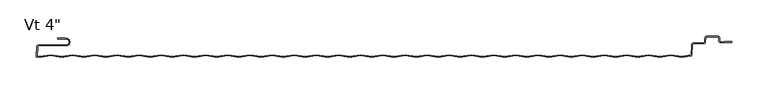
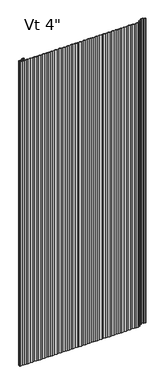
"""IFC4 building model written with IfcOpenShell, lengths in millimetres: plate geometry."""

from ifc_helpers import new_model, si_unit, point, frame, origin, place, context, project, spatial, polyline, circle_curve, ellipse_curve, trimmed, source, transform, mapped, element, save
from ifc_brep_helpers import plane_surface, cylinder_surface, revolved_surface, extruded_surface, advanced_brep


def plate_adb39f1a(model_context):
    return source(origin(), model_context, "Body", "AdvancedBrep", [
        advanced_brep(
        [(-480.4252049, -76.2, 2400.0), (-480.4252049, -77.7875, 2400.0), (-469.1142674, -77.7875, 2400.0), (-469.1142674, -85.725, 2400.0), (-507.2975721, -85.725, 2400.0), (-509.6755586, -87.981625, 2400.0), (-510.41832, -102.1543553, 2400.0), (-506.0646686, -102.8509395, 2400.0), (-490.8246686, -100.4125395, 2400.0), (-475.5846686, -102.8509395, 2400.0), (-460.3446686, -100.4125395, 2400.0), (-445.1046686, -102.8509395, 2400.0), (-429.8646686, -100.4125395, 2400.0), (-414.6246686, -102.8509395, 2400.0), (-399.3846686, -100.4125395, 2400.0), (-384.1446686, -102.8509395, 2400.0), (-368.9046686, -100.4125395, 2400.0), (-353.6646686, -102.8509395, 2400.0), (-338.4246686, -100.4125395, 2400.0), (-323.1846686, -102.8509395, 2400.0), (-307.9446686, -100.4125395, 2400.0), (-292.7046686, -102.8509395, 2400.0), (-277.4646686, -100.4125395, 2400.0), (-262.2246686, -102.8509395, 2400.0), (-246.9846686, -100.4125395, 2400.0), (-231.7446686, -102.8509395, 2400.0), (-216.5046686, -100.4125395, 2400.0), (-201.2646686, -102.8509395, 2400.0), (-186.0246686, -100.4125395, 2400.0), (-170.7846686, -102.8509395, 2400.0), (-155.5446686, -100.4125395, 2400.0), (-140.3046686, -102.8509395, 2400.0), (-125.0646686, -100.4125395, 2400.0), (-109.8246686, -102.8509395, 2400.0), (-94.5846686, -100.4125395, 2400.0), (-79.3446686, -102.8509395, 2400.0), (-64.1046686, -100.4125395, 2400.0), (-48.8646686, -102.8509395, 2400.0), (-33.6246686, -100.4125395, 2400.0), (-18.3846686, -102.8509395, 2400.0), (-3.1446686, -100.4125395, 2400.0), (12.0953314, -102.8509395, 2400.0), (27.3353314, -100.4125395, 2400.0), (42.5753314, -102.8509395, 2400.0), (57.8153314, -100.4125395, 2400.0), (73.0553314, -102.8509395, 2400.0), (88.2953314, -100.4125395, 2400.0), (103.5353314, -102.8509395, 2400.0), (118.7753314, -100.4125395, 2400.0), (134.0153314, -102.8509395, 2400.0), (149.2553314, -100.4125395, 2400.0), (164.4953314, -102.8509395, 2400.0), (179.7353314, -100.4125395, 2400.0), (194.9753314, -102.8509395, 2400.0), (210.2153314, -100.4125395, 2400.0), (225.4553314, -102.8509395, 2400.0), (240.6953314, -100.4125395, 2400.0), (255.9353314, -102.8509395, 2400.0), (271.1753314, -100.4125395, 2400.0), (286.4153314, -102.8509395, 2400.0), (301.6553314, -100.4125395, 2400.0), (316.8953314, -102.8509395, 2400.0), (332.1353314, -100.4125395, 2400.0), (347.3753314, -102.8509395, 2400.0), (362.6153314, -100.4125395, 2400.0), (377.6527639, -102.8185287, 2400.0), (390.0944828, -100.8278537, 2400.0), (391.4289973, -99.343375, 2400.0), (392.1470603, -85.6419167, 2400.0), (393.7323847, -84.1375, 2400.0), (407.8886911, -84.1375, 2400.0), (410.2666776, -81.880875, 2400.0), (410.5687539, -76.1169167, 2400.0), (412.1540783, -74.6125, 2400.0), (427.0294826, -74.6125, 2400.0), (428.6169826, -76.2, 2400.0), (428.6169826, -80.3671875, 2400.0), (430.9982326, -82.7484375, 2400.0), (445.4898532, -82.7484375, 2400.0), (445.4898532, -80.9546875, 2400.0), (435.7607326, -80.9546875, 2400.0), (435.7607326, -81.7484375, 2400.0), (430.9982326, -81.7484375, 2400.0), (429.6169826, -80.3671875, 2400.0), (429.6169826, -76.2, 2400.0), (427.0294826, -73.6125, 2400.0), (412.1540783, -73.6125, 2400.0), (409.5701244, -76.0645807, 2400.0), (409.2680481, -81.828539, 2400.0), (407.8886911, -83.1375, 2400.0), (393.7323847, -83.1375, 2400.0), (391.1484307, -85.5895807, 2400.0), (390.4303677, -99.291039, 2400.0), (389.9364923, -99.840413, 2400.0), (377.6527639, -101.8058096, 2400.0), (362.6153314, -99.3998204, 2400.0), (347.3753314, -101.8382204, 2400.0), (332.1353314, -99.3998204, 2400.0), (316.8953314, -101.8382204, 2400.0), (301.6553314, -99.3998204, 2400.0), (286.4153314, -101.8382204, 2400.0), (271.1753314, -99.3998204, 2400.0), (255.9353314, -101.8382204, 2400.0), (240.6953314, -99.3998204, 2400.0), (225.4553314, -101.8382204, 2400.0), (210.2153314, -99.3998204, 2400.0), (194.9753314, -101.8382204, 2400.0), (179.7353314, -99.3998204, 2400.0), (164.4953314, -101.8382204, 2400.0), (149.2553314, -99.3998204, 2400.0), (134.0153314, -101.8382204, 2400.0), (118.7753314, -99.3998204, 2400.0), (103.5353314, -101.8382204, 2400.0), (88.2953314, -99.3998204, 2400.0), (73.0553314, -101.8382204, 2400.0), (57.8153314, -99.3998204, 2400.0), (42.5753314, -101.8382204, 2400.0), (27.3353314, -99.3998204, 2400.0), (12.0953314, -101.8382204, 2400.0), (-3.1446686, -99.3998204, 2400.0), (-18.3846686, -101.8382204, 2400.0), (-33.6246686, -99.3998204, 2400.0), (-48.8646686, -101.8382204, 2400.0), (-64.1046686, -99.3998204, 2400.0), (-79.3446686, -101.8382204, 2400.0), (-94.5846686, -99.3998204, 2400.0), (-109.8246686, -101.8382204, 2400.0), (-125.0646686, -99.3998204, 2400.0), (-140.3046686, -101.8382204, 2400.0), (-155.5446686, -99.3998204, 2400.0), (-170.7846686, -101.8382204, 2400.0), (-186.0246686, -99.3998204, 2400.0), (-201.2646686, -101.8382204, 2400.0), (-216.5046686, -99.3998204, 2400.0), (-231.7446686, -101.8382204, 2400.0), (-246.9846686, -99.3998204, 2400.0), (-262.2246686, -101.8382204, 2400.0), (-277.4646686, -99.3998204, 2400.0), (-292.7046686, -101.8382204, 2400.0), (-307.9446686, -99.3998204, 2400.0), (-323.1846686, -101.8382204, 2400.0), (-338.4246686, -99.3998204, 2400.0), (-353.6646686, -101.8382204, 2400.0), (-368.9046686, -99.3998204, 2400.0), (-384.1446686, -101.8382204, 2400.0), (-399.3846686, -99.3998204, 2400.0), (-414.6246686, -101.8382204, 2400.0), (-429.8646686, -99.3998204, 2400.0), (-445.1046686, -101.8382204, 2400.0), (-460.3446686, -99.3998204, 2400.0), (-475.5846686, -101.8382204, 2400.0), (-490.8246686, -99.3998204, 2400.0), (-506.0646686, -101.8382204, 2400.0), (-509.3726415, -101.3089447, 2400.0), (-508.6769291, -88.033961, 2400.0), (-507.2975721, -86.725, 2400.0), (-469.1142674, -86.725, 2400.0), (-469.1142674, -76.7875, 2400.0), (-470.7017674, -76.99375, 2400.0), (-470.7017674, -76.2, 2400.0), (-480.4252049, -76.2, 0.0), (-470.7017674, -76.2, 0.0), (-470.7017674, -76.99375, 0.0), (-469.1142674, -76.7875, 0.0), (-469.1142674, -86.725, 0.0), (-507.2975721, -86.725, 0.0), (-508.6769291, -88.033961, 0.0), (-509.3726415, -101.3089447, 0.0), (-506.0646686, -101.8382204, 0.0), (-490.8246686, -99.3998204, 0.0), (-475.5846686, -101.8382204, 0.0), (-460.3446686, -99.3998204, 0.0), (-445.1046686, -101.8382204, 0.0), (-429.8646686, -99.3998204, 0.0), (-414.6246686, -101.8382204, 0.0), (-399.3846686, -99.3998204, 0.0), (-384.1446686, -101.8382204, 0.0), (-368.9046686, -99.3998204, 0.0), (-353.6646686, -101.8382204, 0.0), (-338.4246686, -99.3998204, 0.0), (-323.1846686, -101.8382204, 0.0), (-307.9446686, -99.3998204, 0.0), (-292.7046686, -101.8382204, 0.0), (-277.4646686, -99.3998204, 0.0), (-262.2246686, -101.8382204, 0.0), (-246.9846686, -99.3998204, 0.0), (-231.7446686, -101.8382204, 0.0), (-216.5046686, -99.3998204, 0.0), (-201.2646686, -101.8382204, 0.0), (-186.0246686, -99.3998204, 0.0), (-170.7846686, -101.8382204, 0.0), (-155.5446686, -99.3998204, 0.0), (-140.3046686, -101.8382204, 0.0), (-125.0646686, -99.3998204, 0.0), (-109.8246686, -101.8382204, 0.0), (-94.5846686, -99.3998204, 0.0), (-79.3446686, -101.8382204, 0.0), (-64.1046686, -99.3998204, 0.0), (-48.8646686, -101.8382204, 0.0), (-33.6246686, -99.3998204, 0.0), (-18.3846686, -101.8382204, 0.0), (-3.1446686, -99.3998204, 0.0), (12.0953314, -101.8382204, 0.0), (27.3353314, -99.3998204, 0.0), (42.5753314, -101.8382204, 0.0), (57.8153314, -99.3998204, 0.0), (73.0553314, -101.8382204, 0.0), (88.2953314, -99.3998204, 0.0), (103.5353314, -101.8382204, 0.0), (118.7753314, -99.3998204, 0.0), (134.0153314, -101.8382204, 0.0), (149.2553314, -99.3998204, 0.0), (164.4953314, -101.8382204, 0.0), (179.7353314, -99.3998204, 0.0), (194.9753314, -101.8382204, 0.0), (210.2153314, -99.3998204, 0.0), (225.4553314, -101.8382204, 0.0), (240.6953314, -99.3998204, 0.0), (255.9353314, -101.8382204, 0.0), (271.1753314, -99.3998204, 0.0), (286.4153314, -101.8382204, 0.0), (301.6553314, -99.3998204, 0.0), (316.8953314, -101.8382204, 0.0), (332.1353314, -99.3998204, 0.0), (347.3753314, -101.8382204, 0.0), (362.6153314, -99.3998204, 0.0), (377.6527639, -101.8058096, 0.0), (389.9364923, -99.840413, 0.0), (390.4303677, -99.291039, 0.0), (391.1484307, -85.5895807, 0.0), (393.7323847, -83.1375, 0.0), (407.8886911, -83.1375, 0.0), (409.2680481, -81.828539, 0.0), (409.5701244, -76.0645807, 0.0), (412.1540783, -73.6125, 0.0), (427.0294826, -73.6125, 0.0), (429.6169826, -76.2, 0.0), (429.6169826, -80.3671875, 0.0), (430.9982326, -81.7484375, 0.0), (435.7607326, -81.7484375, 0.0), (435.7607326, -80.9546875, 0.0), (445.4898532, -80.9546875, 0.0), (445.4898532, -82.7484375, 0.0), (430.9982326, -82.7484375, 0.0), (428.6169826, -80.3671875, 0.0), (428.6169826, -76.2, 0.0), (427.0294826, -74.6125, 0.0), (412.1540783, -74.6125, 0.0), (410.5687539, -76.1169167, 0.0), (410.2666776, -81.880875, 0.0), (407.8886911, -84.1375, 0.0), (393.7323847, -84.1375, 0.0), (392.1470603, -85.6419167, 0.0), (391.4289973, -99.343375, 0.0), (390.0944828, -100.8278537, 0.0), (377.6527639, -102.8185287, 0.0), (362.6153314, -100.4125395, 0.0), (347.3753314, -102.8509395, 0.0), (332.1353314, -100.4125395, 0.0), (316.8953314, -102.8509395, 0.0), (301.6553314, -100.4125395, 0.0), (286.4153314, -102.8509395, 0.0), (271.1753314, -100.4125395, 0.0), (255.9353314, -102.8509395, 0.0), (240.6953314, -100.4125395, 0.0), (225.4553314, -102.8509395, 0.0), (210.2153314, -100.4125395, 0.0), (194.9753314, -102.8509395, 0.0), (179.7353314, -100.4125395, 0.0), (164.4953314, -102.8509395, 0.0), (149.2553314, -100.4125395, 0.0), (134.0153314, -102.8509395, 0.0), (118.7753314, -100.4125395, 0.0), (103.5353314, -102.8509395, 0.0), (88.2953314, -100.4125395, 0.0), (73.0553314, -102.8509395, 0.0), (57.8153314, -100.4125395, 0.0), (42.5753314, -102.8509395, 0.0), (27.3353314, -100.4125395, 0.0), (12.0953314, -102.8509395, 0.0), (-3.1446686, -100.4125395, 0.0), (-18.3846686, -102.8509395, 0.0), (-33.6246686, -100.4125395, 0.0), (-48.8646686, -102.8509395, 0.0), (-64.1046686, -100.4125395, 0.0), (-79.3446686, -102.8509395, 0.0), (-94.5846686, -100.4125395, 0.0), (-109.8246686, -102.8509395, 0.0), (-125.0646686, -100.4125395, 0.0), (-140.3046686, -102.8509395, 0.0), (-155.5446686, -100.4125395, 0.0), (-170.7846686, -102.8509395, 0.0), (-186.0246686, -100.4125395, 0.0), (-201.2646686, -102.8509395, 0.0), (-216.5046686, -100.4125395, 0.0), (-231.7446686, -102.8509395, 0.0), (-246.9846686, -100.4125395, 0.0), (-262.2246686, -102.8509395, 0.0), (-277.4646686, -100.4125395, 0.0), (-292.7046686, -102.8509395, 0.0), (-307.9446686, -100.4125395, 0.0), (-323.1846686, -102.8509395, 0.0), (-338.4246686, -100.4125395, 0.0), (-353.6646686, -102.8509395, 0.0), (-368.9046686, -100.4125395, 0.0), (-384.1446686, -102.8509395, 0.0), (-399.3846686, -100.4125395, 0.0), (-414.6246686, -102.8509395, 0.0), (-429.8646686, -100.4125395, 0.0), (-445.1046686, -102.8509395, 0.0), (-460.3446686, -100.4125395, 0.0), (-475.5846686, -102.8509395, 0.0), (-490.8246686, -100.4125395, 0.0), (-506.0646686, -102.8509395, 0.0), (-510.41832, -102.1543553, 0.0), (-509.6755586, -87.981625, 0.0), (-507.2975721, -85.725, 0.0), (-469.1142674, -85.725, 0.0), (-469.1142674, -77.7875, 0.0), (-480.4252049, -77.7875, 0.0)],
        [
            (0, 1, circle_curve(frame((-480.4252049, -76.99375, 2400.0), z_axis=(0.0, 0.0, 1.0), x_axis=(1.0, 0.0, 0.0)), 0.79375)),
            (1, 2),
            (2, 3, circle_curve(frame((-469.1142674, -81.75625, 2400.0), z_axis=(0.0, 0.0, -1.0), x_axis=(1.0, 0.0, 0.0)), 3.96875)),
            (3, 4),
            (4, 5, circle_curve(frame((-507.2975721, -88.10625, 2400.0), z_axis=(0.0, 0.0, 1.0), x_axis=(1.0, 0.0, 0.0)), 2.38125)),
            (5, 6),
            (6, 7),
            (7, 8),
            (8, 9),
            (9, 10),
            (10, 11),
            (11, 12),
            (12, 13),
            (13, 14),
            (14, 15),
            (15, 16),
            (16, 17),
            (17, 18),
            (18, 19),
            (19, 20),
            (20, 21),
            (21, 22),
            (22, 23),
            (23, 24),
            (24, 25),
            (25, 26),
            (26, 27),
            (27, 28),
            (28, 29),
            (29, 30),
            (30, 31),
            (31, 32),
            (32, 33),
            (33, 34),
            (34, 35),
            (35, 36),
            (36, 37),
            (37, 38),
            (38, 39),
            (39, 40),
            (40, 41),
            (41, 42),
            (42, 43),
            (43, 44),
            (44, 45),
            (45, 46),
            (46, 47),
            (47, 48),
            (48, 49),
            (49, 50),
            (50, 51),
            (51, 52),
            (52, 53),
            (53, 54),
            (54, 55),
            (55, 56),
            (56, 57),
            (57, 58),
            (58, 59),
            (59, 60),
            (60, 61),
            (61, 62),
            (62, 63),
            (63, 64),
            (64, 65),
            (65, 66),
            (66, 67, circle_curve(frame((389.8436729, -99.2602917, 2400.0), z_axis=(0.0, 0.0, 1.0), x_axis=(1.0, 0.0, 0.0)), 1.5875)),
            (67, 68),
            (68, 69, circle_curve(frame((393.7323847, -85.725, 2400.0), z_axis=(0.0, 0.0, -1.0), x_axis=(1.0, 0.0, 0.0)), 1.5875)),
            (69, 70),
            (70, 71, circle_curve(frame((407.8886911, -81.75625, 2400.0), z_axis=(0.0, 0.0, 1.0), x_axis=(1.0, 0.0, 0.0)), 2.38125)),
            (71, 72),
            (72, 73, circle_curve(frame((412.1540783, -76.2, 2400.0), z_axis=(0.0, 0.0, -1.0), x_axis=(1.0, 0.0, 0.0)), 1.5875)),
            (73, 74),
            (74, 75, circle_curve(frame((427.0294826, -76.2, 2400.0), z_axis=(0.0, 0.0, -1.0), x_axis=(1.0, 0.0, 0.0)), 1.5875)),
            (75, 76),
            (76, 77, circle_curve(frame((430.9982326, -80.3671875, 2400.0), z_axis=(0.0, 0.0, 1.0), x_axis=(1.0, 0.0, 0.0)), 2.38125)),
            (77, 78),
            (78, 79, ellipse_curve(frame((445.4898532, -81.8515625, 2400.0), z_axis=(0.0, 0.0, 1.0), x_axis=(0.0, 1.0, 0.0)), 0.896875, 0.7852275)),
            (79, 80),
            (80, 81),
            (81, 82),
            (82, 83, circle_curve(frame((430.9982326, -80.3671875, 2400.0), z_axis=(0.0, 0.0, -1.0), x_axis=(1.0, 0.0, 0.0)), 1.38125)),
            (83, 84),
            (84, 85, circle_curve(frame((427.0294826, -76.2, 2400.0), z_axis=(0.0, 0.0, 1.0), x_axis=(1.0, 0.0, 0.0)), 2.5875)),
            (85, 86),
            (86, 87, circle_curve(frame((412.1540783, -76.2, 2400.0), z_axis=(0.0, 0.0, 1.0), x_axis=(1.0, 0.0, 0.0)), 2.5875)),
            (87, 88),
            (88, 89, circle_curve(frame((407.8886911, -81.75625, 2400.0), z_axis=(0.0, 0.0, -1.0), x_axis=(1.0, 0.0, 0.0)), 1.38125)),
            (89, 90),
            (90, 91, circle_curve(frame((393.7323847, -85.725, 2400.0), z_axis=(0.0, 0.0, 1.0), x_axis=(1.0, 0.0, 0.0)), 2.5875)),
            (91, 92),
            (92, 93, circle_curve(frame((389.8436729, -99.2602917, 2400.0), z_axis=(0.0, 0.0, -1.0), x_axis=(1.0, 0.0, 0.0)), 0.5875)),
            (93, 94),
            (94, 95),
            (95, 96),
            (96, 97),
            (97, 98),
            (98, 99),
            (99, 100),
            (100, 101),
            (101, 102),
            (102, 103),
            (103, 104),
            (104, 105),
            (105, 106),
            (106, 107),
            (107, 108),
            (108, 109),
            (109, 110),
            (110, 111),
            (111, 112),
            (112, 113),
            (113, 114),
            (114, 115),
            (115, 116),
            (116, 117),
            (117, 118),
            (118, 119),
            (119, 120),
            (120, 121),
            (121, 122),
            (122, 123),
            (123, 124),
            (124, 125),
            (125, 126),
            (126, 127),
            (127, 128),
            (128, 129),
            (129, 130),
            (130, 131),
            (131, 132),
            (132, 133),
            (133, 134),
            (134, 135),
            (135, 136),
            (136, 137),
            (137, 138),
            (138, 139),
            (139, 140),
            (140, 141),
            (141, 142),
            (142, 143),
            (143, 144),
            (144, 145),
            (145, 146),
            (146, 147),
            (147, 148),
            (148, 149),
            (149, 150),
            (150, 151),
            (151, 152),
            (152, 153),
            (153, 154),
            (154, 155, circle_curve(frame((-507.2975721, -88.10625, 2400.0), z_axis=(0.0, 0.0, -1.0), x_axis=(1.0, 0.0, 0.0)), 1.38125)),
            (155, 156),
            (156, 157, circle_curve(frame((-469.1142674, -81.75625, 2400.0), z_axis=(0.0, 0.0, 1.0), x_axis=(1.0, 0.0, 0.0)), 4.96875)),
            (157, 158),
            (158, 159),
            (159, 0),
            (160, 161),
            (161, 162),
            (162, 163),
            (163, 164, circle_curve(frame((-469.1142674, -81.75625, 0.0), z_axis=(0.0, 0.0, -1.0), x_axis=(1.0, 0.0, 0.0)), 4.96875)),
            (164, 165),
            (165, 166, circle_curve(frame((-507.2975721, -88.10625, 0.0), z_axis=(0.0, 0.0, 1.0), x_axis=(1.0, 0.0, 0.0)), 1.38125)),
            (166, 167),
            (167, 168),
            (168, 169),
            (169, 170),
            (170, 171),
            (171, 172),
            (172, 173),
            (173, 174),
            (174, 175),
            (175, 176),
            (176, 177),
            (177, 178),
            (178, 179),
            (179, 180),
            (180, 181),
            (181, 182),
            (182, 183),
            (183, 184),
            (184, 185),
            (185, 186),
            (186, 187),
            (187, 188),
            (188, 189),
            (189, 190),
            (190, 191),
            (191, 192),
            (192, 193),
            (193, 194),
            (194, 195),
            (195, 196),
            (196, 197),
            (197, 198),
            (198, 199),
            (199, 200),
            (200, 201),
            (201, 202),
            (202, 203),
            (203, 204),
            (204, 205),
            (205, 206),
            (206, 207),
            (207, 208),
            (208, 209),
            (209, 210),
            (210, 211),
            (211, 212),
            (212, 213),
            (213, 214),
            (214, 215),
            (215, 216),
            (216, 217),
            (217, 218),
            (218, 219),
            (219, 220),
            (220, 221),
            (221, 222),
            (222, 223),
            (223, 224),
            (224, 225),
            (225, 226),
            (226, 227),
            (227, 228, circle_curve(frame((389.8436729, -99.2602917, 0.0), z_axis=(0.0, 0.0, 1.0), x_axis=(1.0, 0.0, 0.0)), 0.5875)),
            (228, 229),
            (229, 230, circle_curve(frame((393.7323847, -85.725, 0.0), z_axis=(0.0, 0.0, -1.0), x_axis=(1.0, 0.0, 0.0)), 2.5875)),
            (230, 231),
            (231, 232, circle_curve(frame((407.8886911, -81.75625, 0.0), z_axis=(0.0, 0.0, 1.0), x_axis=(1.0, 0.0, 0.0)), 1.38125)),
            (232, 233),
            (233, 234, circle_curve(frame((412.1540783, -76.2, 0.0), z_axis=(0.0, 0.0, -1.0), x_axis=(1.0, 0.0, 0.0)), 2.5875)),
            (234, 235),
            (235, 236, circle_curve(frame((427.0294826, -76.2, 0.0), z_axis=(0.0, 0.0, -1.0), x_axis=(1.0, 0.0, 0.0)), 2.5875)),
            (236, 237),
            (237, 238, circle_curve(frame((430.9982326, -80.3671875, 0.0), z_axis=(0.0, 0.0, 1.0), x_axis=(1.0, 0.0, 0.0)), 1.38125)),
            (238, 239),
            (239, 240),
            (240, 241),
            (241, 242, ellipse_curve(frame((445.4898532, -81.8515625, 0.0), z_axis=(0.0, 0.0, -1.0), x_axis=(0.0, 1.0, 0.0)), 0.896875, 0.7852275)),
            (242, 243),
            (243, 244, circle_curve(frame((430.9982326, -80.3671875, 0.0), z_axis=(0.0, 0.0, -1.0), x_axis=(1.0, 0.0, 0.0)), 2.38125)),
            (244, 245),
            (245, 246, circle_curve(frame((427.0294826, -76.2, 0.0), z_axis=(0.0, 0.0, 1.0), x_axis=(1.0, 0.0, 0.0)), 1.5875)),
            (246, 247),
            (247, 248, circle_curve(frame((412.1540783, -76.2, 0.0), z_axis=(0.0, 0.0, 1.0), x_axis=(1.0, 0.0, 0.0)), 1.5875)),
            (248, 249),
            (249, 250, circle_curve(frame((407.8886911, -81.75625, 0.0), z_axis=(0.0, 0.0, -1.0), x_axis=(1.0, 0.0, 0.0)), 2.38125)),
            (250, 251),
            (251, 252, circle_curve(frame((393.7323847, -85.725, 0.0), z_axis=(0.0, 0.0, 1.0), x_axis=(1.0, 0.0, 0.0)), 1.5875)),
            (252, 253),
            (253, 254, circle_curve(frame((389.8436729, -99.2602917, 0.0), z_axis=(0.0, 0.0, -1.0), x_axis=(1.0, 0.0, 0.0)), 1.5875)),
            (254, 255),
            (255, 256),
            (256, 257),
            (257, 258),
            (258, 259),
            (259, 260),
            (260, 261),
            (261, 262),
            (262, 263),
            (263, 264),
            (264, 265),
            (265, 266),
            (266, 267),
            (267, 268),
            (268, 269),
            (269, 270),
            (270, 271),
            (271, 272),
            (272, 273),
            (273, 274),
            (274, 275),
            (275, 276),
            (276, 277),
            (277, 278),
            (278, 279),
            (279, 280),
            (280, 281),
            (281, 282),
            (282, 283),
            (283, 284),
            (284, 285),
            (285, 286),
            (286, 287),
            (287, 288),
            (288, 289),
            (289, 290),
            (290, 291),
            (291, 292),
            (292, 293),
            (293, 294),
            (294, 295),
            (295, 296),
            (296, 297),
            (297, 298),
            (298, 299),
            (299, 300),
            (300, 301),
            (301, 302),
            (302, 303),
            (303, 304),
            (304, 305),
            (305, 306),
            (306, 307),
            (307, 308),
            (308, 309),
            (309, 310),
            (310, 311),
            (311, 312),
            (312, 313),
            (313, 314),
            (314, 315),
            (315, 316, circle_curve(frame((-507.2975721, -88.10625, 0.0), z_axis=(0.0, 0.0, -1.0), x_axis=(1.0, 0.0, 0.0)), 2.38125)),
            (316, 317),
            (317, 318, circle_curve(frame((-469.1142674, -81.75625, 0.0), z_axis=(0.0, 0.0, 1.0), x_axis=(1.0, 0.0, 0.0)), 3.96875)),
            (318, 319),
            (319, 160, circle_curve(frame((-480.4252049, -76.99375, 0.0), z_axis=(0.0, 0.0, -1.0), x_axis=(1.0, 0.0, 0.0)), 0.79375)),
            (159, 161),
            (160, 0),
            (319, 1),
            (318, 2),
            (317, 3),
            (316, 4),
            (315, 5),
            (314, 6),
            (68, 252),
            (251, 69),
            (250, 70),
            (249, 71),
            (248, 72),
            (247, 73),
            (154, 166),
            (165, 155),
            (90, 230),
            (229, 91),
            (89, 231),
            (88, 232),
            (87, 233),
            (86, 234),
            (81, 239),
            (238, 82),
            (237, 83),
            (236, 84),
            (246, 74),
            (245, 75),
            (244, 76),
            (243, 77),
            (242, 78),
            (85, 235),
            (164, 156),
            (163, 157),
            (158, 162),
            (80, 240),
            (79, 241),
            (95, 225),
            (224, 96),
            (223, 97),
            (222, 98),
            (221, 99),
            (220, 100),
            (219, 101),
            (218, 102),
            (217, 103),
            (216, 104),
            (215, 105),
            (214, 106),
            (213, 107),
            (212, 108),
            (211, 109),
            (147, 173),
            (172, 148),
            (171, 149),
            (170, 150),
            (169, 151),
            (168, 152),
            (167, 153),
            (313, 7),
            (312, 8),
            (311, 9),
            (310, 10),
            (309, 11),
            (308, 12),
            (36, 284),
            (283, 37),
            (282, 38),
            (50, 270),
            (269, 51),
            (268, 52),
            (267, 53),
            (266, 54),
            (265, 55),
            (264, 56),
            (263, 57),
            (262, 58),
            (261, 59),
            (260, 60),
            (259, 61),
            (258, 62),
            (257, 63),
            (256, 64),
            (65, 255),
            (254, 66),
            (253, 67),
            (92, 228),
            (227, 93),
            (226, 94),
            (123, 197),
            (196, 124),
            (195, 125),
            (194, 126),
            (49, 271),
            (48, 272),
            (47, 273),
            (46, 274),
            (45, 275),
            (44, 276),
            (43, 277),
            (42, 278),
            (41, 279),
            (40, 280),
            (39, 281),
            (122, 198),
            (121, 199),
            (120, 200),
            (119, 201),
            (118, 202),
            (117, 203),
            (116, 204),
            (115, 205),
            (114, 206),
            (113, 207),
            (112, 208),
            (111, 209),
            (110, 210),
            (135, 185),
            (184, 136),
            (183, 137),
            (193, 127),
            (192, 128),
            (191, 129),
            (130, 190),
            (189, 131),
            (188, 132),
            (133, 187),
            (186, 134),
            (22, 298),
            (297, 23),
            (24, 296),
            (295, 25),
            (294, 26),
            (293, 27),
            (292, 28),
            (291, 29),
            (290, 30),
            (289, 31),
            (288, 32),
            (287, 33),
            (286, 34),
            (285, 35),
            (182, 138),
            (181, 139),
            (180, 140),
            (179, 141),
            (178, 142),
            (177, 143),
            (16, 304),
            (303, 17),
            (302, 18),
            (301, 19),
            (300, 20),
            (299, 21),
            (176, 144),
            (175, 145),
            (174, 146),
            (307, 13),
            (306, 14),
            (305, 15),
        ],
        [
            plane_surface(frame((0.00625, -101.6, 2400.0), z_axis=(0.0, 0.0, 1.0), x_axis=(0.0, -1.0, 0.0))),
            plane_surface(frame((0.00625, -101.6, 0.0), z_axis=(0.0, 0.0, -1.0), x_axis=(0.0, -1.0, 0.0))),
            plane_surface(frame((-480.4252049, -76.2, 2400.0), z_axis=(0.0, 1.0, 0.0), x_axis=(0.0, 0.0, -1.0))),
            cylinder_surface(frame((-480.4252049, -76.99375, 2400.0), z_axis=(0.0, 0.0, 1.0), x_axis=(1.0, 0.0, 0.0)), 0.79375),
            plane_surface(frame((-469.1142674, -77.7875, 2400.0), z_axis=(0.0, -1.0, 0.0), x_axis=(0.0, 0.0, -1.0))),
            revolved_surface(polyline([(-465.1455174, -81.75625, 0.0), (-465.1455174, -81.75625, 2400.0)]), (-469.1142674, -81.75625, 2400.0), (0.0, 0.0, -1.0)),
            plane_surface(frame((-507.2975721, -85.725, 2400.0), z_axis=(0.0, 1.0, 0.0), x_axis=(0.0, 0.0, -1.0))),
            cylinder_surface(frame((-507.2975721, -88.10625, 2400.0), z_axis=(0.0, 0.0, 1.0), x_axis=(1.0, 0.0, 0.0)), 2.38125),
            plane_surface(frame((-510.41832, -102.1543553, 2400.0), z_axis=(-0.9986295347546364, 0.05233595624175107, 0.0), x_axis=(0.0, 0.0, -1.0))),
            revolved_surface(polyline([(395.3198847, -85.725, 0.0), (395.3198847, -85.725, 2400.0)]), (393.7323847, -85.725, 2400.0), (0.0, 0.0, -1.0)),
            plane_surface(frame((407.8886911, -84.1375, 2400.0), z_axis=(0.0, -1.0, 0.0), x_axis=(0.0, 0.0, -1.0))),
            cylinder_surface(frame((407.8886911, -81.75625, 2400.0), z_axis=(0.0, 0.0, 1.0), x_axis=(1.0, 0.0, 0.0)), 2.38125),
            plane_surface(frame((410.5687539, -76.1169167, 2400.0), z_axis=(0.9986295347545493, -0.052335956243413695, 0.0), x_axis=(0.0, 0.0, -1.0))),
            revolved_surface(polyline([(413.74157829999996, -76.2, 0.0), (413.74157829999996, -76.2, 2400.0)]), (412.1540783, -76.2, 2400.0), (0.0, 0.0, -1.0)),
            revolved_surface(polyline([(-505.9163221, -88.10625, 0.0), (-505.9163221, -88.10625, 2400.0)]), (-507.2975721, -88.10625, 2400.0), (0.0, 0.0, -1.0)),
            cylinder_surface(frame((393.7323847, -85.725, 2400.0), z_axis=(0.0, 0.0, 1.0), x_axis=(1.0, 0.0, 0.0)), 2.5875),
            plane_surface(frame((393.7323847, -83.1375, 2400.0), z_axis=(0.0, 1.0, 0.0), x_axis=(0.0, 0.0, -1.0))),
            revolved_surface(polyline([(409.26994110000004, -81.75625, 0.0), (409.26994110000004, -81.75625, 2400.0)]), (407.8886911, -81.75625, 2400.0), (0.0, 0.0, -1.0)),
            plane_surface(frame((409.2680481, -81.828539, 2400.0), z_axis=(-0.998629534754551, 0.05233595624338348, 0.0), x_axis=(0.0, 0.0, -1.0))),
            cylinder_surface(frame((412.1540783, -76.2, 2400.0), z_axis=(0.0, 0.0, 1.0), x_axis=(1.0, 0.0, 0.0)), 2.5875),
            plane_surface(frame((430.9982326, -81.7484375, 2400.0), z_axis=(0.0, 1.0, 0.0), x_axis=(0.0, 0.0, -1.0))),
            revolved_surface(polyline([(432.3794826, -80.3671875, 0.0), (432.3794826, -80.3671875, 2400.0)]), (430.9982326, -80.3671875, 2400.0), (0.0, 0.0, -1.0)),
            plane_surface(frame((429.6169826, -76.2, 2400.0), z_axis=(1.0, 0.0, 0.0), x_axis=(0.0, 0.0, -1.0))),
            plane_surface(frame((427.0294826, -74.6125, 2400.0), z_axis=(0.0, -1.0, 0.0), x_axis=(0.0, 0.0, -1.0))),
            revolved_surface(polyline([(428.6169826, -76.2, 0.0), (428.6169826, -76.2, 2400.0)]), (427.0294826, -76.2, 2400.0), (0.0, 0.0, -1.0)),
            plane_surface(frame((428.6169826, -80.3671875, 2400.0), z_axis=(-1.0, 0.0, 0.0), x_axis=(0.0, 0.0, -1.0))),
            cylinder_surface(frame((430.9982326, -80.3671875, 2400.0), z_axis=(0.0, 0.0, 1.0), x_axis=(1.0, 0.0, 0.0)), 2.38125),
            plane_surface(frame((445.4898532, -82.7484375, 2400.0), z_axis=(0.0, -1.0, 0.0), x_axis=(0.0, 0.0, -1.0))),
            plane_surface(frame((412.1540783, -73.6125, 2400.0), z_axis=(0.0, 1.0, 0.0), x_axis=(0.0, 0.0, -1.0))),
            cylinder_surface(frame((427.0294826, -76.2, 2400.0), z_axis=(0.0, 0.0, 1.0), x_axis=(1.0, 0.0, 0.0)), 2.5875),
            plane_surface(frame((-469.1142674, -86.725, 2400.0), z_axis=(0.0, -1.0, 0.0), x_axis=(0.0, 0.0, -1.0))),
            cylinder_surface(frame((-469.1142674, -81.75625, 2400.0), z_axis=(0.0, 0.0, 1.0), x_axis=(1.0, 0.0, 0.0)), 4.96875),
            plane_surface(frame((-470.7017674, -76.2, 2400.0), z_axis=(1.0, 0.0, 0.0), x_axis=(0.0, 0.0, -1.0))),
            plane_surface(frame((-470.7017674, -76.99375, 2400.0), z_axis=(-0.12883844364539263, 0.9916655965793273, 0.0), x_axis=(0.0, 0.0, -1.0))),
            plane_surface(frame((435.7607326, -81.7484375, 2400.0), z_axis=(-1.0, 0.0, 0.0), x_axis=(0.0, 0.0, -1.0))),
            plane_surface(frame((435.7607326, -80.9546875, 2400.0), z_axis=(0.0, 1.0, 0.0), x_axis=(0.0, 0.0, -1.0))),
            extruded_surface(trimmed(ellipse_curve(frame((445.4898532, -81.8515625, 2400.0), z_axis=(0.0, 0.0, -1.0), x_axis=(0.0, 1.0, 0.0)), 0.896875, 0.7852275), [point((445.4898532, -80.9546875, 2400.0))], [point((445.4898532, -82.7484375, 2400.0))], True, "CARTESIAN"), (0.0, 0.0, -2400.0), 2400.0),
            plane_surface(frame((347.3753314, -101.8382204, 2400.0), z_axis=(-0.15799050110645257, 0.9874406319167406, 0.0), x_axis=(0.0, 0.0, -1.0))),
            plane_surface(frame((332.1353314, -99.3998204, 2400.0), z_axis=(0.157990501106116, 0.9874406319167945, 0.0), x_axis=(0.0, 0.0, -1.0))),
            plane_surface(frame((316.8953314, -101.8382204, 2400.0), z_axis=(-0.15799050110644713, 0.9874406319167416, 0.0), x_axis=(0.0, 0.0, -1.0))),
            plane_surface(frame((301.6553314, -99.3998204, 2400.0), z_axis=(0.157990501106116, 0.9874406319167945, 0.0), x_axis=(0.0, 0.0, -1.0))),
            plane_surface(frame((286.4153314, -101.8382204, 2400.0), z_axis=(-0.15799050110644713, 0.9874406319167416, 0.0), x_axis=(0.0, 0.0, -1.0))),
            plane_surface(frame((271.1753314, -99.3998204, 2400.0), z_axis=(0.157990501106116, 0.9874406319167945, 0.0), x_axis=(0.0, 0.0, -1.0))),
            plane_surface(frame((255.9353314, -101.8382204, 2400.0), z_axis=(-0.15799050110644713, 0.9874406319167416, 0.0), x_axis=(0.0, 0.0, -1.0))),
            plane_surface(frame((240.6953314, -99.3998204, 2400.0), z_axis=(0.15799050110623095, 0.9874406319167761, 0.0), x_axis=(0.0, 0.0, -1.0))),
            plane_surface(frame((225.4553314, -101.8382204, 2400.0), z_axis=(-0.15799050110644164, 0.9874406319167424, 0.0), x_axis=(0.0, 0.0, -1.0))),
            plane_surface(frame((210.2153314, -99.3998204, 2400.0), z_axis=(0.15799050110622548, 0.987440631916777, 0.0), x_axis=(0.0, 0.0, -1.0))),
            plane_surface(frame((194.9753314, -101.8382204, 2400.0), z_axis=(-0.15799050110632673, 0.9874406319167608, 0.0), x_axis=(0.0, 0.0, -1.0))),
            plane_surface(frame((179.7353314, -99.3998204, 2400.0), z_axis=(0.15799050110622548, 0.987440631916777, 0.0), x_axis=(0.0, 0.0, -1.0))),
            plane_surface(frame((164.4953314, -101.8382204, 2400.0), z_axis=(-0.15799050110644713, 0.9874406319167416, 0.0), x_axis=(0.0, 0.0, -1.0))),
            plane_surface(frame((149.2553314, -99.3998204, 2400.0), z_axis=(0.15799050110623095, 0.9874406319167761, 0.0), x_axis=(0.0, 0.0, -1.0))),
            plane_surface(frame((-445.1046686, -101.8382204, 2400.0), z_axis=(-0.15799050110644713, 0.9874406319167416, 0.0), x_axis=(0.0, 0.0, -1.0))),
            plane_surface(frame((-460.3446686, -99.3998204, 2400.0), z_axis=(0.15799050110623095, 0.9874406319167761, 0.0), x_axis=(0.0, 0.0, -1.0))),
            plane_surface(frame((-475.5846686, -101.8382204, 2400.0), z_axis=(-0.15799050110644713, 0.9874406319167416, 0.0), x_axis=(0.0, 0.0, -1.0))),
            plane_surface(frame((-490.8246686, -99.3998204, 2400.0), z_axis=(0.157990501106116, 0.9874406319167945, 0.0), x_axis=(0.0, 0.0, -1.0))),
            plane_surface(frame((-506.0646686, -101.8382204, 2400.0), z_axis=(-0.15799050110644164, 0.9874406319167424, 0.0), x_axis=(0.0, 0.0, -1.0))),
            plane_surface(frame((-509.3726415, -101.3089447, 2400.0), z_axis=(0.1579905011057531, 0.9874406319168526, 0.0), x_axis=(0.0, 0.0, -1.0))),
            plane_surface(frame((-506.0646686, -102.8509395, 2400.0), z_axis=(-0.15799050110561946, -0.9874406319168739, 0.0), x_axis=(0.0, 0.0, -1.0))),
            plane_surface(frame((-490.8246686, -100.4125395, 2400.0), z_axis=(0.15799050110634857, -0.9874406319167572, 0.0), x_axis=(0.0, 0.0, -1.0))),
            plane_surface(frame((-475.5846686, -102.8509395, 2400.0), z_axis=(-0.15799050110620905, -0.9874406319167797, 0.0), x_axis=(0.0, 0.0, -1.0))),
            plane_surface(frame((-460.3446686, -100.4125395, 2400.0), z_axis=(0.15799050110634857, -0.9874406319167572, 0.0), x_axis=(0.0, 0.0, -1.0))),
            plane_surface(frame((-445.1046686, -102.8509395, 2400.0), z_axis=(-0.15799050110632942, -0.9874406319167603, 0.0), x_axis=(0.0, 0.0, -1.0))),
            plane_surface(frame((-429.8646686, -100.4125395, 2400.0), z_axis=(0.15799050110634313, -0.9874406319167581, 0.0), x_axis=(0.0, 0.0, -1.0))),
            plane_surface(frame((-48.8646686, -102.8509395, 2400.0), z_axis=(-0.15799050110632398, -0.9874406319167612, 0.0), x_axis=(0.0, 0.0, -1.0))),
            plane_surface(frame((-33.6246686, -100.4125395, 2400.0), z_axis=(0.15799050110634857, -0.9874406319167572, 0.0), x_axis=(0.0, 0.0, -1.0))),
            plane_surface(frame((164.4953314, -102.8509395, 2400.0), z_axis=(-0.15799050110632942, -0.9874406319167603, 0.0), x_axis=(0.0, 0.0, -1.0))),
            plane_surface(frame((179.7353314, -100.4125395, 2400.0), z_axis=(0.15799050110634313, -0.9874406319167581, 0.0), x_axis=(0.0, 0.0, -1.0))),
            plane_surface(frame((194.9753314, -102.8509395, 2400.0), z_axis=(-0.15799050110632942, -0.9874406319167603, 0.0), x_axis=(0.0, 0.0, -1.0))),
            plane_surface(frame((210.2153314, -100.4125395, 2400.0), z_axis=(0.1579905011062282, -0.9874406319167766, 0.0), x_axis=(0.0, 0.0, -1.0))),
            plane_surface(frame((225.4553314, -102.8509395, 2400.0), z_axis=(-0.15799050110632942, -0.9874406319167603, 0.0), x_axis=(0.0, 0.0, -1.0))),
            plane_surface(frame((240.6953314, -100.4125395, 2400.0), z_axis=(0.15799050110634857, -0.9874406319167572, 0.0), x_axis=(0.0, 0.0, -1.0))),
            plane_surface(frame((255.9353314, -102.8509395, 2400.0), z_axis=(-0.15799050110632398, -0.9874406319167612, 0.0), x_axis=(0.0, 0.0, -1.0))),
            plane_surface(frame((271.1753314, -100.4125395, 2400.0), z_axis=(0.15799050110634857, -0.9874406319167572, 0.0), x_axis=(0.0, 0.0, -1.0))),
            plane_surface(frame((286.4153314, -102.8509395, 2400.0), z_axis=(-0.15799050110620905, -0.9874406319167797, 0.0), x_axis=(0.0, 0.0, -1.0))),
            plane_surface(frame((301.6553314, -100.4125395, 2400.0), z_axis=(0.15799050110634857, -0.9874406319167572, 0.0), x_axis=(0.0, 0.0, -1.0))),
            plane_surface(frame((316.8953314, -102.8509395, 2400.0), z_axis=(-0.15799050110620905, -0.9874406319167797, 0.0), x_axis=(0.0, 0.0, -1.0))),
            plane_surface(frame((332.1353314, -100.4125395, 2400.0), z_axis=(0.15799050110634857, -0.9874406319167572, 0.0), x_axis=(0.0, 0.0, -1.0))),
            plane_surface(frame((347.3753314, -102.8509395, 2400.0), z_axis=(-0.15799050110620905, -0.9874406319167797, 0.0), x_axis=(0.0, 0.0, -1.0))),
            plane_surface(frame((362.6153314, -100.4125395, 2400.0), z_axis=(0.15799050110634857, -0.9874406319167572, 0.0), x_axis=(0.0, 0.0, -1.0))),
            plane_surface(frame((390.0944828, -100.8278537, 2400.0), z_axis=(0.15799050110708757, -0.987440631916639, 0.0), x_axis=(0.0, 0.0, -1.0))),
            cylinder_surface(frame((389.8436729, -99.2602917, 2400.0), z_axis=(0.0, 0.0, 1.0), x_axis=(1.0, 0.0, 0.0)), 1.5875),
            revolved_surface(polyline([(390.4311729, -99.2602917, 0.0), (390.4311729, -99.2602917, 2400.0)]), (389.8436729, -99.2602917, 2400.0), (0.0, 0.0, -1.0)),
            plane_surface(frame((377.6527639, -101.8058096, 2400.0), z_axis=(-0.15799050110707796, 0.9874406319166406, 0.0), x_axis=(0.0, 0.0, -1.0))),
            plane_surface(frame((-79.3446686, -101.8382204, 2400.0), z_axis=(-0.15799050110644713, 0.9874406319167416, 0.0), x_axis=(0.0, 0.0, -1.0))),
            plane_surface(frame((-94.5846686, -99.3998204, 2400.0), z_axis=(0.157990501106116, 0.9874406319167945, 0.0), x_axis=(0.0, 0.0, -1.0))),
            plane_surface(frame((-109.8246686, -101.8382204, 2400.0), z_axis=(-0.15799050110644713, 0.9874406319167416, 0.0), x_axis=(0.0, 0.0, -1.0))),
            plane_surface(frame((149.2553314, -100.4125395, 2400.0), z_axis=(0.15799050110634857, -0.9874406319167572, 0.0), x_axis=(0.0, 0.0, -1.0))),
            plane_surface(frame((134.0153314, -102.8509395, 2400.0), z_axis=(-0.15799050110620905, -0.9874406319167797, 0.0), x_axis=(0.0, 0.0, -1.0))),
            plane_surface(frame((118.7753314, -100.4125395, 2400.0), z_axis=(0.15799050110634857, -0.9874406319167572, 0.0), x_axis=(0.0, 0.0, -1.0))),
            plane_surface(frame((103.5353314, -102.8509395, 2400.0), z_axis=(-0.15799050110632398, -0.9874406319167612, 0.0), x_axis=(0.0, 0.0, -1.0))),
            plane_surface(frame((88.2953314, -100.4125395, 2400.0), z_axis=(0.15799050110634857, -0.9874406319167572, 0.0), x_axis=(0.0, 0.0, -1.0))),
            plane_surface(frame((73.0553314, -102.8509395, 2400.0), z_axis=(-0.15799050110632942, -0.9874406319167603, 0.0), x_axis=(0.0, 0.0, -1.0))),
            plane_surface(frame((57.8153314, -100.4125395, 2400.0), z_axis=(0.1579905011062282, -0.9874406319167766, 0.0), x_axis=(0.0, 0.0, -1.0))),
            plane_surface(frame((42.5753314, -102.8509395, 2400.0), z_axis=(-0.15799050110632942, -0.9874406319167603, 0.0), x_axis=(0.0, 0.0, -1.0))),
            plane_surface(frame((27.3353314, -100.4125395, 2400.0), z_axis=(0.15799050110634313, -0.9874406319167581, 0.0), x_axis=(0.0, 0.0, -1.0))),
            plane_surface(frame((12.0953314, -102.8509395, 2400.0), z_axis=(-0.15799050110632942, -0.9874406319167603, 0.0), x_axis=(0.0, 0.0, -1.0))),
            plane_surface(frame((-3.1446686, -100.4125395, 2400.0), z_axis=(0.15799050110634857, -0.9874406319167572, 0.0), x_axis=(0.0, 0.0, -1.0))),
            plane_surface(frame((-18.3846686, -102.8509395, 2400.0), z_axis=(-0.15799050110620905, -0.9874406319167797, 0.0), x_axis=(0.0, 0.0, -1.0))),
            plane_surface(frame((-64.1046686, -99.3998204, 2400.0), z_axis=(0.15799050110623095, 0.9874406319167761, 0.0), x_axis=(0.0, 0.0, -1.0))),
            plane_surface(frame((-48.8646686, -101.8382204, 2400.0), z_axis=(-0.15799050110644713, 0.9874406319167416, 0.0), x_axis=(0.0, 0.0, -1.0))),
            plane_surface(frame((-33.6246686, -99.3998204, 2400.0), z_axis=(0.157990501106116, 0.9874406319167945, 0.0), x_axis=(0.0, 0.0, -1.0))),
            plane_surface(frame((-18.3846686, -101.8382204, 2400.0), z_axis=(-0.15799050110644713, 0.9874406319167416, 0.0), x_axis=(0.0, 0.0, -1.0))),
            plane_surface(frame((-3.1446686, -99.3998204, 2400.0), z_axis=(0.15799050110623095, 0.9874406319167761, 0.0), x_axis=(0.0, 0.0, -1.0))),
            plane_surface(frame((12.0953314, -101.8382204, 2400.0), z_axis=(-0.15799050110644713, 0.9874406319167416, 0.0), x_axis=(0.0, 0.0, -1.0))),
            plane_surface(frame((27.3353314, -99.3998204, 2400.0), z_axis=(0.15799050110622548, 0.987440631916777, 0.0), x_axis=(0.0, 0.0, -1.0))),
            plane_surface(frame((42.5753314, -101.8382204, 2400.0), z_axis=(-0.15799050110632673, 0.9874406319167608, 0.0), x_axis=(0.0, 0.0, -1.0))),
            plane_surface(frame((57.8153314, -99.3998204, 2400.0), z_axis=(0.15799050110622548, 0.987440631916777, 0.0), x_axis=(0.0, 0.0, -1.0))),
            plane_surface(frame((73.0553314, -101.8382204, 2400.0), z_axis=(-0.15799050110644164, 0.9874406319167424, 0.0), x_axis=(0.0, 0.0, -1.0))),
            plane_surface(frame((88.2953314, -99.3998204, 2400.0), z_axis=(0.15799050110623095, 0.9874406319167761, 0.0), x_axis=(0.0, 0.0, -1.0))),
            plane_surface(frame((103.5353314, -101.8382204, 2400.0), z_axis=(-0.15799050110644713, 0.9874406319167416, 0.0), x_axis=(0.0, 0.0, -1.0))),
            plane_surface(frame((118.7753314, -99.3998204, 2400.0), z_axis=(0.157990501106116, 0.9874406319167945, 0.0), x_axis=(0.0, 0.0, -1.0))),
            plane_surface(frame((134.0153314, -101.8382204, 2400.0), z_axis=(-0.15799050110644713, 0.9874406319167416, 0.0), x_axis=(0.0, 0.0, -1.0))),
            plane_surface(frame((-508.6769291, -88.033961, 2400.0), z_axis=(0.9986295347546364, -0.05233595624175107, 0.0), x_axis=(0.0, 0.0, -1.0))),
            plane_surface(frame((-262.2246686, -101.8382204, 2400.0), z_axis=(-0.15799050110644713, 0.9874406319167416, 0.0), x_axis=(0.0, 0.0, -1.0))),
            plane_surface(frame((392.1470603, -85.6419167, 2400.0), z_axis=(0.9986295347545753, -0.052335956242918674, 0.0), x_axis=(0.0, 0.0, -1.0))),
            plane_surface(frame((390.4303677, -99.291039, 2400.0), z_axis=(-0.9986295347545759, 0.05233595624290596, 0.0), x_axis=(0.0, 0.0, -1.0))),
            plane_surface(frame((377.6527639, -102.8185287, 2400.0), z_axis=(-0.15799050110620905, -0.9874406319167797, 0.0), x_axis=(0.0, 0.0, -1.0))),
            plane_surface(frame((362.6153314, -99.3998204, 2400.0), z_axis=(0.15799050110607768, 0.9874406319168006, 0.0), x_axis=(0.0, 0.0, -1.0))),
            plane_surface(frame((-277.4646686, -99.3998204, 2400.0), z_axis=(0.15799050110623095, 0.9874406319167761, 0.0), x_axis=(0.0, 0.0, -1.0))),
            plane_surface(frame((-125.0646686, -99.3998204, 2400.0), z_axis=(0.15799050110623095, 0.9874406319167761, 0.0), x_axis=(0.0, 0.0, -1.0))),
            plane_surface(frame((-140.3046686, -101.8382204, 2400.0), z_axis=(-0.15799050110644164, 0.9874406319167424, 0.0), x_axis=(0.0, 0.0, -1.0))),
            plane_surface(frame((-155.5446686, -99.3998204, 2400.0), z_axis=(0.15799050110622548, 0.987440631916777, 0.0), x_axis=(0.0, 0.0, -1.0))),
            plane_surface(frame((-186.0246686, -99.3998204, 2400.0), z_axis=(0.15799050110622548, 0.987440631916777, 0.0), x_axis=(0.0, 0.0, -1.0))),
            plane_surface(frame((-170.7846686, -101.8382204, 2400.0), z_axis=(-0.15799050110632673, 0.9874406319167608, 0.0), x_axis=(0.0, 0.0, -1.0))),
            plane_surface(frame((-201.2646686, -101.8382204, 2400.0), z_axis=(-0.15799050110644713, 0.9874406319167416, 0.0), x_axis=(0.0, 0.0, -1.0))),
            plane_surface(frame((-231.7446686, -101.8382204, 2400.0), z_axis=(-0.15799050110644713, 0.9874406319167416, 0.0), x_axis=(0.0, 0.0, -1.0))),
            plane_surface(frame((-246.9846686, -99.3998204, 2400.0), z_axis=(0.157990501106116, 0.9874406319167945, 0.0), x_axis=(0.0, 0.0, -1.0))),
            plane_surface(frame((-216.5046686, -99.3998204, 2400.0), z_axis=(0.15799050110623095, 0.9874406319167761, 0.0), x_axis=(0.0, 0.0, -1.0))),
            plane_surface(frame((-262.2246686, -102.8509395, 2400.0), z_axis=(-0.15799050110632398, -0.9874406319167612, 0.0), x_axis=(0.0, 0.0, -1.0))),
            plane_surface(frame((-231.7446686, -102.8509395, 2400.0), z_axis=(-0.15799050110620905, -0.9874406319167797, 0.0), x_axis=(0.0, 0.0, -1.0))),
            plane_surface(frame((-216.5046686, -100.4125395, 2400.0), z_axis=(0.15799050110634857, -0.9874406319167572, 0.0), x_axis=(0.0, 0.0, -1.0))),
            plane_surface(frame((-201.2646686, -102.8509395, 2400.0), z_axis=(-0.15799050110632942, -0.9874406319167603, 0.0), x_axis=(0.0, 0.0, -1.0))),
            plane_surface(frame((-186.0246686, -100.4125395, 2400.0), z_axis=(0.15799050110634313, -0.9874406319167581, 0.0), x_axis=(0.0, 0.0, -1.0))),
            plane_surface(frame((-170.7846686, -102.8509395, 2400.0), z_axis=(-0.15799050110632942, -0.9874406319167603, 0.0), x_axis=(0.0, 0.0, -1.0))),
            plane_surface(frame((-155.5446686, -100.4125395, 2400.0), z_axis=(0.1579905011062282, -0.9874406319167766, 0.0), x_axis=(0.0, 0.0, -1.0))),
            plane_surface(frame((-140.3046686, -102.8509395, 2400.0), z_axis=(-0.15799050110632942, -0.9874406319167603, 0.0), x_axis=(0.0, 0.0, -1.0))),
            plane_surface(frame((-125.0646686, -100.4125395, 2400.0), z_axis=(0.15799050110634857, -0.9874406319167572, 0.0), x_axis=(0.0, 0.0, -1.0))),
            plane_surface(frame((-109.8246686, -102.8509395, 2400.0), z_axis=(-0.15799050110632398, -0.9874406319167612, 0.0), x_axis=(0.0, 0.0, -1.0))),
            plane_surface(frame((-94.5846686, -100.4125395, 2400.0), z_axis=(0.15799050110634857, -0.9874406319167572, 0.0), x_axis=(0.0, 0.0, -1.0))),
            plane_surface(frame((-79.3446686, -102.8509395, 2400.0), z_axis=(-0.15799050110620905, -0.9874406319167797, 0.0), x_axis=(0.0, 0.0, -1.0))),
            plane_surface(frame((-64.1046686, -100.4125395, 2400.0), z_axis=(0.15799050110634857, -0.9874406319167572, 0.0), x_axis=(0.0, 0.0, -1.0))),
            plane_surface(frame((-292.7046686, -101.8382204, 2400.0), z_axis=(-0.15799050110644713, 0.9874406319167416, 0.0), x_axis=(0.0, 0.0, -1.0))),
            plane_surface(frame((-307.9446686, -99.3998204, 2400.0), z_axis=(0.15799050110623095, 0.9874406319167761, 0.0), x_axis=(0.0, 0.0, -1.0))),
            plane_surface(frame((-323.1846686, -101.8382204, 2400.0), z_axis=(-0.15799050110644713, 0.9874406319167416, 0.0), x_axis=(0.0, 0.0, -1.0))),
            plane_surface(frame((-338.4246686, -99.3998204, 2400.0), z_axis=(0.157990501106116, 0.9874406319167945, 0.0), x_axis=(0.0, 0.0, -1.0))),
            plane_surface(frame((-353.6646686, -101.8382204, 2400.0), z_axis=(-0.15799050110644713, 0.9874406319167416, 0.0), x_axis=(0.0, 0.0, -1.0))),
            plane_surface(frame((-368.9046686, -99.3998204, 2400.0), z_axis=(0.15799050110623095, 0.9874406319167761, 0.0), x_axis=(0.0, 0.0, -1.0))),
            plane_surface(frame((-353.6646686, -102.8509395, 2400.0), z_axis=(-0.15799050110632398, -0.9874406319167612, 0.0), x_axis=(0.0, 0.0, -1.0))),
            plane_surface(frame((-338.4246686, -100.4125395, 2400.0), z_axis=(0.15799050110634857, -0.9874406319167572, 0.0), x_axis=(0.0, 0.0, -1.0))),
            plane_surface(frame((-323.1846686, -102.8509395, 2400.0), z_axis=(-0.15799050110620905, -0.9874406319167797, 0.0), x_axis=(0.0, 0.0, -1.0))),
            plane_surface(frame((-307.9446686, -100.4125395, 2400.0), z_axis=(0.15799050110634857, -0.9874406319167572, 0.0), x_axis=(0.0, 0.0, -1.0))),
            plane_surface(frame((-292.7046686, -102.8509395, 2400.0), z_axis=(-0.15799050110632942, -0.9874406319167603, 0.0), x_axis=(0.0, 0.0, -1.0))),
            plane_surface(frame((-277.4646686, -100.4125395, 2400.0), z_axis=(0.15799050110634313, -0.9874406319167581, 0.0), x_axis=(0.0, 0.0, -1.0))),
            plane_surface(frame((-384.1446686, -101.8382204, 2400.0), z_axis=(-0.15799050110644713, 0.9874406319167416, 0.0), x_axis=(0.0, 0.0, -1.0))),
            plane_surface(frame((-399.3846686, -99.3998204, 2400.0), z_axis=(0.157990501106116, 0.9874406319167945, 0.0), x_axis=(0.0, 0.0, -1.0))),
            plane_surface(frame((-414.6246686, -101.8382204, 2400.0), z_axis=(-0.15799050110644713, 0.9874406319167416, 0.0), x_axis=(0.0, 0.0, -1.0))),
            plane_surface(frame((-429.8646686, -99.3998204, 2400.0), z_axis=(0.15799050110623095, 0.9874406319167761, 0.0), x_axis=(0.0, 0.0, -1.0))),
            plane_surface(frame((-414.6246686, -102.8509395, 2400.0), z_axis=(-0.15799050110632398, -0.9874406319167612, 0.0), x_axis=(0.0, 0.0, -1.0))),
            plane_surface(frame((-399.3846686, -100.4125395, 2400.0), z_axis=(0.15799050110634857, -0.9874406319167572, 0.0), x_axis=(0.0, 0.0, -1.0))),
            plane_surface(frame((-384.1446686, -102.8509395, 2400.0), z_axis=(-0.15799050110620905, -0.9874406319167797, 0.0), x_axis=(0.0, 0.0, -1.0))),
            plane_surface(frame((-368.9046686, -100.4125395, 2400.0), z_axis=(0.15799050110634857, -0.9874406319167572, 0.0), x_axis=(0.0, 0.0, -1.0))),
            plane_surface(frame((-246.9846686, -100.4125395, 2400.0), z_axis=(0.15799050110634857, -0.9874406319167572, 0.0), x_axis=(0.0, 0.0, -1.0))),
        ],
        [
            (0, [[1, 2, 3, 4, 5, 6, 7, 8, 9, 10, 11, 12, 13, 14, 15, 16, 17, 18, 19, 20, 21, 22, 23, 24, 25, 26, 27, 28, 29, 30, 31, 32, 33, 34, 35, 36, 37, 38, 39, 40, 41, 42, 43, 44, 45, 46, 47, 48, 49, 50, 51, 52, 53, 54, 55, 56, 57, 58, 59, 60, 61, 62, 63, 64, 65, 66, 67, 68, 69, 70, 71, 72, 73, 74, 75, 76, 77, 78, 79, 80, 81, 82, 83, 84, 85, 86, 87, 88, 89, 90, 91, 92, 93, 94, 95, 96, 97, 98, 99, 100, 101, 102, 103, 104, 105, 106, 107, 108, 109, 110, 111, 112, 113, 114, 115, 116, 117, 118, 119, 120, 121, 122, 123, 124, 125, 126, 127, 128, 129, 130, 131, 132, 133, 134, 135, 136, 137, 138, 139, 140, 141, 142, 143, 144, 145, 146, 147, 148, 149, 150, 151, 152, 153, 154, 155, 156, 157, 158, 159, 160]]),
            (1, [[161, 162, 163, 164, 165, 166, 167, 168, 169, 170, 171, 172, 173, 174, 175, 176, 177, 178, 179, 180, 181, 182, 183, 184, 185, 186, 187, 188, 189, 190, 191, 192, 193, 194, 195, 196, 197, 198, 199, 200, 201, 202, 203, 204, 205, 206, 207, 208, 209, 210, 211, 212, 213, 214, 215, 216, 217, 218, 219, 220, 221, 222, 223, 224, 225, 226, 227, 228, 229, 230, 231, 232, 233, 234, 235, 236, 237, 238, 239, 240, 241, 242, 243, 244, 245, 246, 247, 248, 249, 250, 251, 252, 253, 254, 255, 256, 257, 258, 259, 260, 261, 262, 263, 264, 265, 266, 267, 268, 269, 270, 271, 272, 273, 274, 275, 276, 277, 278, 279, 280, 281, 282, 283, 284, 285, 286, 287, 288, 289, 290, 291, 292, 293, 294, 295, 296, 297, 298, 299, 300, 301, 302, 303, 304, 305, 306, 307, 308, 309, 310, 311, 312, 313, 314, 315, 316, 317, 318, 319, 320]]),
            (2, [[321, -161, 322, -160]]),
            (3, [[-322, -320, 323, -1]]),
            (4, [[-323, -319, 324, -2]]),
            (5, [[-324, -318, 325, -3]]),
            (6, [[-325, -317, 326, -4]]),
            (7, [[-326, -316, 327, -5]]),
            (8, [[-327, -315, 328, -6]]),
            (9, [[329, -252, 330, -69]]),
            (10, [[-330, -251, 331, -70]]),
            (11, [[-331, -250, 332, -71]]),
            (12, [[-332, -249, 333, -72]]),
            (13, [[-333, -248, 334, -73]]),
            (14, [[335, -166, 336, -155]]),
            (15, [[337, -230, 338, -91]]),
            (16, [[339, -231, -337, -90]]),
            (17, [[340, -232, -339, -89]]),
            (18, [[341, -233, -340, -88]]),
            (19, [[342, -234, -341, -87]]),
            (20, [[343, -239, 344, -82]]),
            (21, [[-344, -238, 345, -83]]),
            (22, [[-345, -237, 346, -84]]),
            (23, [[-334, -247, 347, -74]]),
            (24, [[-347, -246, 348, -75]]),
            (25, [[-348, -245, 349, -76]]),
            (26, [[-349, -244, 350, -77]]),
            (27, [[-350, -243, 351, -78]]),
            (28, [[352, -235, -342, -86]]),
            (29, [[-346, -236, -352, -85]]),
            (30, [[-336, -165, 353, -156]]),
            (31, [[-353, -164, 354, -157]]),
            (32, [[355, -162, -321, -159]]),
            (33, [[-354, -163, -355, -158]]),
            (34, [[356, -240, -343, -81]]),
            (35, [[357, -241, -356, -80]]),
            (36, [[-351, -242, -357, -79]]),
            (37, [[358, -225, 359, -96]]),
            (38, [[-359, -224, 360, -97]]),
            (39, [[-360, -223, 361, -98]]),
            (40, [[-361, -222, 362, -99]]),
            (41, [[-362, -221, 363, -100]]),
            (42, [[-363, -220, 364, -101]]),
            (43, [[-364, -219, 365, -102]]),
            (44, [[-365, -218, 366, -103]]),
            (45, [[-366, -217, 367, -104]]),
            (46, [[-367, -216, 368, -105]]),
            (47, [[-368, -215, 369, -106]]),
            (48, [[-369, -214, 370, -107]]),
            (49, [[-370, -213, 371, -108]]),
            (50, [[-371, -212, 372, -109]]),
            (51, [[373, -173, 374, -148]]),
            (52, [[-374, -172, 375, -149]]),
            (53, [[-375, -171, 376, -150]]),
            (54, [[-376, -170, 377, -151]]),
            (55, [[-377, -169, 378, -152]]),
            (56, [[-378, -168, 379, -153]]),
            (57, [[-328, -314, 380, -7]]),
            (58, [[-380, -313, 381, -8]]),
            (59, [[-381, -312, 382, -9]]),
            (60, [[-382, -311, 383, -10]]),
            (61, [[-383, -310, 384, -11]]),
            (62, [[-384, -309, 385, -12]]),
            (63, [[386, -284, 387, -37]]),
            (64, [[-387, -283, 388, -38]]),
            (65, [[389, -270, 390, -51]]),
            (66, [[-390, -269, 391, -52]]),
            (67, [[-391, -268, 392, -53]]),
            (68, [[-392, -267, 393, -54]]),
            (69, [[-393, -266, 394, -55]]),
            (70, [[-394, -265, 395, -56]]),
            (71, [[-395, -264, 396, -57]]),
            (72, [[-396, -263, 397, -58]]),
            (73, [[-397, -262, 398, -59]]),
            (74, [[-398, -261, 399, -60]]),
            (75, [[-399, -260, 400, -61]]),
            (76, [[-400, -259, 401, -62]]),
            (77, [[-401, -258, 402, -63]]),
            (78, [[-402, -257, 403, -64]]),
            (79, [[404, -255, 405, -66]]),
            (80, [[-405, -254, 406, -67]]),
            (81, [[407, -228, 408, -93]]),
            (82, [[-408, -227, 409, -94]]),
            (83, [[410, -197, 411, -124]]),
            (84, [[-411, -196, 412, -125]]),
            (85, [[-412, -195, 413, -126]]),
            (86, [[414, -271, -389, -50]]),
            (87, [[415, -272, -414, -49]]),
            (88, [[416, -273, -415, -48]]),
            (89, [[417, -274, -416, -47]]),
            (90, [[418, -275, -417, -46]]),
            (91, [[419, -276, -418, -45]]),
            (92, [[420, -277, -419, -44]]),
            (93, [[421, -278, -420, -43]]),
            (94, [[422, -279, -421, -42]]),
            (95, [[423, -280, -422, -41]]),
            (96, [[424, -281, -423, -40]]),
            (97, [[-388, -282, -424, -39]]),
            (98, [[425, -198, -410, -123]]),
            (99, [[426, -199, -425, -122]]),
            (100, [[427, -200, -426, -121]]),
            (101, [[428, -201, -427, -120]]),
            (102, [[429, -202, -428, -119]]),
            (103, [[430, -203, -429, -118]]),
            (104, [[431, -204, -430, -117]]),
            (105, [[432, -205, -431, -116]]),
            (106, [[433, -206, -432, -115]]),
            (107, [[434, -207, -433, -114]]),
            (108, [[435, -208, -434, -113]]),
            (109, [[436, -209, -435, -112]]),
            (110, [[437, -210, -436, -111]]),
            (111, [[-372, -211, -437, -110]]),
            (112, [[-379, -167, -335, -154]]),
            (113, [[438, -185, 439, -136]]),
            (114, [[-406, -253, -329, -68]]),
            (115, [[-338, -229, -407, -92]]),
            (116, [[-403, -256, -404, -65]]),
            (117, [[-409, -226, -358, -95]]),
            (118, [[-439, -184, 440, -137]]),
            (119, [[-413, -194, 441, -127]]),
            (120, [[-441, -193, 442, -128]]),
            (121, [[-442, -192, 443, -129]]),
            (122, [[444, -190, 445, -131]]),
            (123, [[-443, -191, -444, -130]]),
            (124, [[-445, -189, 446, -132]]),
            (125, [[447, -187, 448, -134]]),
            (126, [[-448, -186, -438, -135]]),
            (127, [[-446, -188, -447, -133]]),
            (128, [[449, -298, 450, -23]]),
            (129, [[451, -296, 452, -25]]),
            (130, [[-452, -295, 453, -26]]),
            (131, [[-453, -294, 454, -27]]),
            (132, [[-454, -293, 455, -28]]),
            (133, [[-455, -292, 456, -29]]),
            (134, [[-456, -291, 457, -30]]),
            (135, [[-457, -290, 458, -31]]),
            (136, [[-458, -289, 459, -32]]),
            (137, [[-459, -288, 460, -33]]),
            (138, [[-460, -287, 461, -34]]),
            (139, [[-461, -286, 462, -35]]),
            (140, [[-462, -285, -386, -36]]),
            (141, [[-440, -183, 463, -138]]),
            (142, [[-463, -182, 464, -139]]),
            (143, [[-464, -181, 465, -140]]),
            (144, [[-465, -180, 466, -141]]),
            (145, [[-466, -179, 467, -142]]),
            (146, [[-467, -178, 468, -143]]),
            (147, [[469, -304, 470, -17]]),
            (148, [[-470, -303, 471, -18]]),
            (149, [[-471, -302, 472, -19]]),
            (150, [[-472, -301, 473, -20]]),
            (151, [[-473, -300, 474, -21]]),
            (152, [[-474, -299, -449, -22]]),
            (153, [[-468, -177, 475, -144]]),
            (154, [[-475, -176, 476, -145]]),
            (155, [[-476, -175, 477, -146]]),
            (156, [[-477, -174, -373, -147]]),
            (157, [[-385, -308, 478, -13]]),
            (158, [[-478, -307, 479, -14]]),
            (159, [[-479, -306, 480, -15]]),
            (160, [[-480, -305, -469, -16]]),
            (161, [[-450, -297, -451, -24]]),
        ],
    ),
    ])


if __name__ == "__main__":
    model = new_model("IFC4")
    model_context = context("Model", 3, world=origin())
    ifc_project = project(units=[si_unit("LENGTHUNIT", "METRE", prefix="MILLI")], contexts=[model_context])
    site = spatial("IfcSite", under=ifc_project)
    building = spatial("IfcBuilding", under=site)
    placement = place(None, origin())
    plate_shape = plate_adb39f1a(model_context)
    element("IfcPlate", 1, ObjectType="KIP-36-DWHR-R19-CP-Vt-S : Vt 4\"", at=placement, inside=building, context=model_context, shape_type="MappedRepresentation", body=[
        mapped(plate_shape, transform((0.0, 0.0, 0.0), x_axis=(1.0, 0.0, 0.0), y_axis=(0.0, 1.0, 0.0), z_axis=(0.0, 0.0, 1.0))),
    ])
    save(model, "model.ifc")
